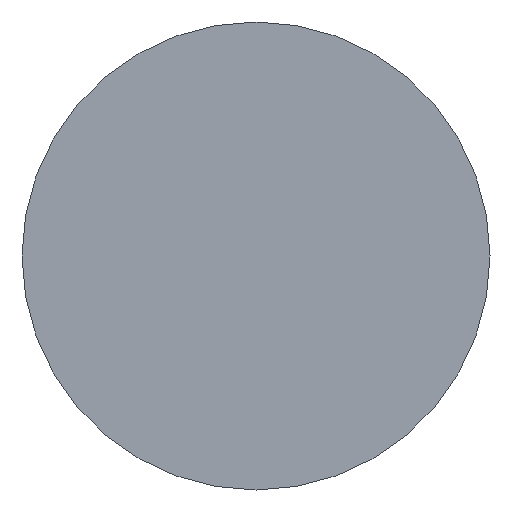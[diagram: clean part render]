
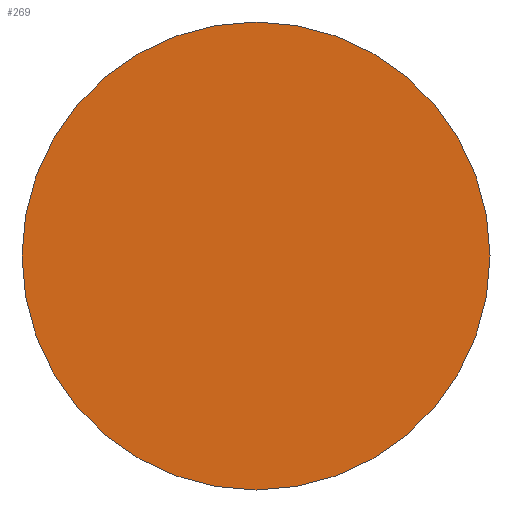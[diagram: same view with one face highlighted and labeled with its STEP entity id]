
A CAD part, left-side view. The second image highlights one B-rep face of the part: STEP entity #269.
In plain terms, the highlighted planar face has unit normal (-1, 0, 0).
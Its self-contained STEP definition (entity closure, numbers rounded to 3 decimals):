
#4 = DIRECTION ( 'NONE',  ( 0., -1., 0. ) ) ;
#7 = DIRECTION ( 'NONE',  ( -1., 0., 0. ) ) ;
#25 = CARTESIAN_POINT ( 'NONE',  ( 0., 0., 0. ) ) ;
#53 = DIRECTION ( 'NONE',  ( 1., 0., 0. ) ) ;
#57 = AXIS2_PLACEMENT_3D ( 'NONE', #183, #133, #122 ) ;
#75 = EDGE_CURVE ( 'NONE', #85, #125, #146, .T. ) ;
#84 = AXIS2_PLACEMENT_3D ( 'NONE', #178, #53, #199 ) ;
#85 = VERTEX_POINT ( 'NONE', #91 ) ;
#90 = CARTESIAN_POINT ( 'NONE',  ( 0., -11., 0. ) ) ;
#91 = CARTESIAN_POINT ( 'NONE',  ( 0., 11., 0. ) ) ;
#95 = FACE_OUTER_BOUND ( 'NONE', #101, .T. ) ;
#101 = EDGE_LOOP ( 'NONE', ( #155, #257 ) ) ;
#122 = DIRECTION ( 'NONE',  ( 0., 1., 0. ) ) ;
#125 = VERTEX_POINT ( 'NONE', #90 ) ;
#133 = DIRECTION ( 'NONE',  ( 1., 0., 0. ) ) ;
#146 = CIRCLE ( 'NONE', #84, 11. ) ;
#155 = ORIENTED_EDGE ( 'NONE', *, *, #75, .F. ) ;
#156 = CIRCLE ( 'NONE', #57, 11. ) ;
#178 = CARTESIAN_POINT ( 'NONE',  ( 0., 0., 0. ) ) ;
#183 = CARTESIAN_POINT ( 'NONE',  ( 0., 0., 0. ) ) ;
#199 = DIRECTION ( 'NONE',  ( 0., 1., 0. ) ) ;
#211 = EDGE_CURVE ( 'NONE', #125, #85, #156, .T. ) ;
#231 = PLANE ( 'NONE',  #242 ) ;
#242 = AXIS2_PLACEMENT_3D ( 'NONE', #25, #7, #4 ) ;
#257 = ORIENTED_EDGE ( 'NONE', *, *, #211, .F. ) ;
#269 = ADVANCED_FACE ( 'NONE', ( #95 ), #231, .T. ) ;
